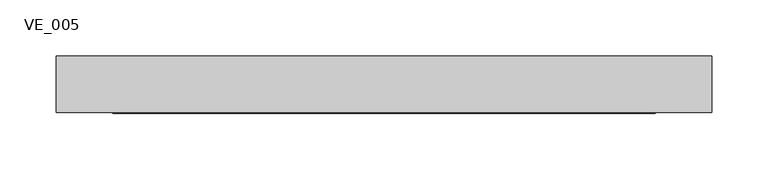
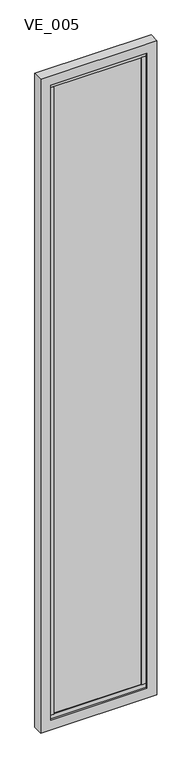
"""IFC4 building model written with IfcOpenShell, lengths in millimetres: plate geometry, TRP_CP_ARC_PF_RE : VE_005."""

from ifc_helpers import new_model, si_unit, frame, origin, place, context, project, spatial, polyline, outline, extrude, source, transform, mapped, element, save


def ve_005_5d872f8a(model_context):
    return source(origin(), model_context, "Body", "SweptSolid", [
        extrude(outline(polyline([(220.0412783, -10.0), (-220.0412783, -10.0), (-220.0412783, 10.0), (220.0412783, 10.0), (220.0412783, -10.0)])), frame((0.0, 0.0, 70.0), z_axis=(0.0, 0.0, 1.0), x_axis=(1.0, 0.0, 0.0)), (0.0, 0.0, 1.0), 3310.0),
        extrude(outline(polyline([(240.0412783, -15.0), (220.0412783, -15.0), (220.0412783, 15.0), (240.0412783, 15.0), (240.0412783, -15.0)])), frame((0.0, 0.0, 70.0), z_axis=(0.0, 0.0, 1.0), x_axis=(1.0, 0.0, 0.0)), (0.0, 0.0, 1.0), 3310.0),
        extrude(outline(polyline([(-220.0412783, -15.0), (-240.0412783, -15.0), (-240.0412783, 15.0), (-220.0412783, 15.0), (-220.0412783, -15.0)])), frame((0.0, 0.0, 70.0), z_axis=(0.0, 0.0, 1.0), x_axis=(1.0, 0.0, 0.0)), (0.0, 0.0, 1.0), 3310.0),
        extrude(outline(polyline([(240.0412783, -15.0), (-240.0412783, -15.0), (-240.0412783, 15.0), (240.0412783, 15.0), (240.0412783, -15.0)])), frame((0.0, 0.0, 50.0), z_axis=(0.0, 0.0, 1.0), x_axis=(1.0, 0.0, 0.0)), (0.0, 0.0, 1.0), 20.0),
        extrude(outline(polyline([(240.0412783, -15.0), (-240.0412783, -15.0), (-240.0412783, 15.0), (240.0412783, 15.0), (240.0412783, -15.0)])), frame((0.0, 0.0, 3380.0), z_axis=(0.0, 0.0, 1.0), x_axis=(1.0, 0.0, 0.0)), (0.0, 0.0, 1.0), 20.0),
        extrude(outline(polyline([(3450.0, 290.0412783), (3450.0, -290.0412783), (0.0, -290.0412783), (0.0, 290.0412783), (3450.0, 290.0412783)]), holes=[polyline([(50.0, 240.0412783), (50.0, -240.0412783), (3400.0, -240.0412783), (3400.0, 240.0412783), (50.0, 240.0412783)])]), frame((0.0, -25.0, 0.0), z_axis=(0.0, 1.0, 0.0), x_axis=(0.0, 0.0, 1.0)), (0.0, 0.0, 1.0), 50.0),
    ])


if __name__ == "__main__":
    model = new_model("IFC4")
    model_context = context("Model", 3, world=origin())
    ifc_project = project(units=[si_unit("LENGTHUNIT", "METRE", prefix="MILLI")], contexts=[model_context])
    site = spatial("IfcSite", under=ifc_project)
    building = spatial("IfcBuilding", under=site)
    placement = place(None, origin())
    ve_005_shape = ve_005_5d872f8a(model_context)
    element("IfcPlate", 1, ObjectType="TRP_CP_ARC_PF_RE : VE_005", at=placement, inside=building, context=model_context, shape_type="MappedRepresentation", body=[
        mapped(ve_005_shape, transform((0.0, 0.0, 0.0), x_axis=(1.0, 0.0, 0.0), y_axis=(0.0, 1.0, 0.0), z_axis=(0.0, 0.0, 1.0))),
    ])
    save(model, "model.ifc")
